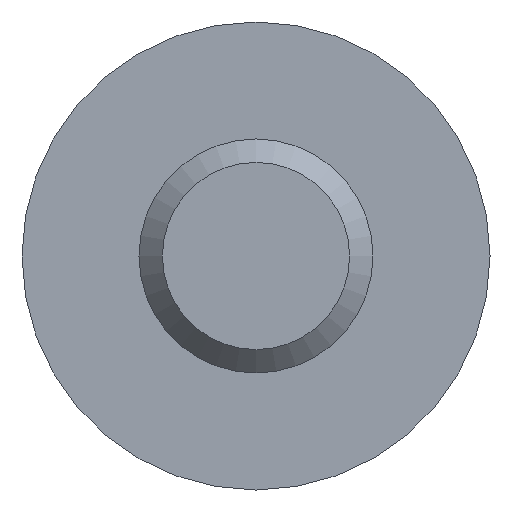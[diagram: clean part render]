
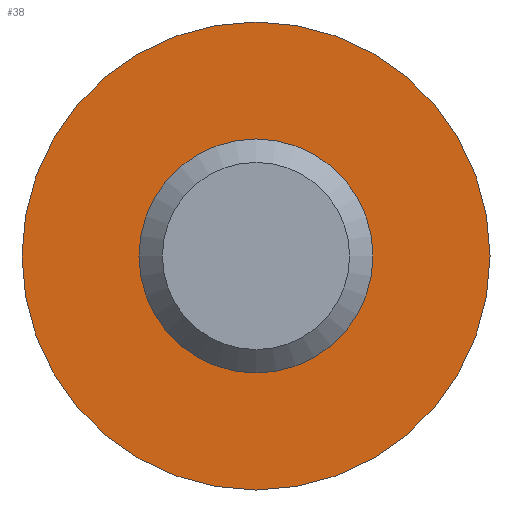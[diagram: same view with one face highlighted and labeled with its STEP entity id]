
A CAD part, left-side view. The second image highlights one B-rep face of the part: STEP entity #38.
In plain terms, the highlighted planar face has unit normal (-1, 0, 0).
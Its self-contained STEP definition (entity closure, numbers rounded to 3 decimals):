
#38 = ADVANCED_FACE( '', ( #79, #80 ), #81, .T. );
#79 = FACE_OUTER_BOUND( '', #124, .T. );
#80 = FACE_BOUND( '', #125, .T. );
#81 = PLANE( '', #126 );
#124 = EDGE_LOOP( '', ( #167 ) );
#125 = EDGE_LOOP( '', ( #168 ) );
#126 = AXIS2_PLACEMENT_3D( '', #169, #170, #171 );
#167 = ORIENTED_EDGE( '', *, *, #217, .T. );
#168 = ORIENTED_EDGE( '', *, *, #219, .F. );
#169 = CARTESIAN_POINT( '', ( 15., 10., 0. ) );
#170 = DIRECTION( '', ( -1., 0., 0. ) );
#171 = DIRECTION( '', ( 0., 0., 1. ) );
#217 = EDGE_CURVE( '', #239, #239, #240, .T. );
#219 = EDGE_CURVE( '', #242, #242, #243, .T. );
#239 = VERTEX_POINT( '', #267 );
#240 = CIRCLE( '', #268, 10. );
#242 = VERTEX_POINT( '', #270 );
#243 = CIRCLE( '', #271, 5. );
#267 = CARTESIAN_POINT( '', ( 15., 0., 10. ) );
#268 = AXIS2_PLACEMENT_3D( '', #296, #297, #298 );
#270 = CARTESIAN_POINT( '', ( 15., 0., 5. ) );
#271 = AXIS2_PLACEMENT_3D( '', #299, #300, #301 );
#296 = CARTESIAN_POINT( '', ( 15., 0., 0. ) );
#297 = DIRECTION( '', ( -1., 0., 0. ) );
#298 = DIRECTION( '', ( 0., 0., 1. ) );
#299 = CARTESIAN_POINT( '', ( 15., 0., 0. ) );
#300 = DIRECTION( '', ( -1., 0., 0. ) );
#301 = DIRECTION( '', ( 0., 0., 1. ) );
